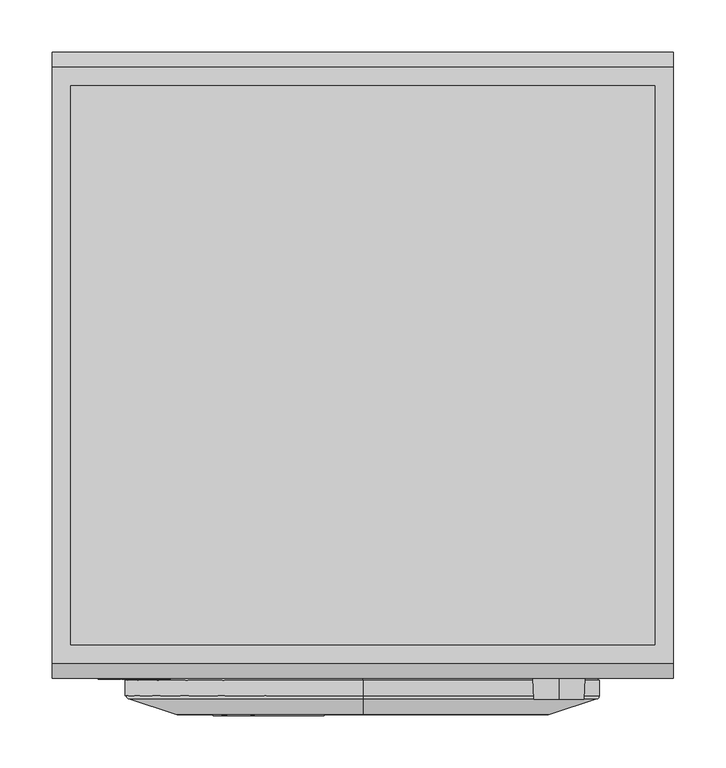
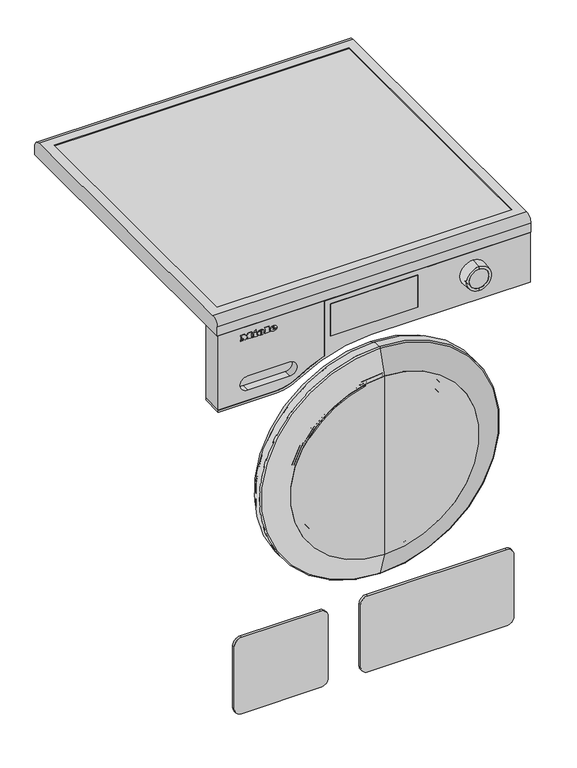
"""IFC4 building model written with IfcOpenShell, lengths in millimetres: proxy geometry, 12455150_F_WEI885WPS_LW : 11EI8856_F_12455150_WEI885WPS_LW."""

from ifc_helpers import new_model, si_unit, point, frame, frame_2d, origin, place, context, project, spatial, polyline, circle_curve, ellipse_curve, trimmed, segment, composite_curve, outline, extrude, source, transform, mapped, element, save
from ifc_brep_helpers import plane_surface, cylinder_surface, revolved_surface, extruded_surface, advanced_brep


def specialty_equipment_6abb5cbe(model_context):
    return source(origin(), model_context, "Body", "SolidModel", [
        advanced_brep(
        [(-192.212, -601.0, 794.7018), (-192.212, -601.0, 795.8532), (-184.5854, -601.0, 795.8532), (-197.855, -601.0, 795.8532), (-194.72, -601.0, 792.0), (-184.7792, -601.0, 794.7018), (-188.222, -601.0, 794.7018), (-190.9352, -601.0, 793.425), (-192.212, -601.0, 797.3124), (-192.212, -601.0, 798.555), (-190.2626, -601.0, 798.555), (-190.2626, -601.0, 797.3124), (-192.212, -600.0, 794.7018), (-190.9352, -600.0, 793.425), (-188.222, -600.0, 794.7018), (-184.7792, -600.0, 794.7018), (-194.72, -600.0, 792.0), (-197.855, -600.0, 795.8532), (-184.5854, -600.0, 795.8532), (-192.212, -600.0, 795.8532), (-192.212, -600.0, 797.3124), (-190.2626, -600.0, 797.3124), (-190.2626, -600.0, 798.555), (-192.212, -600.0, 798.555)],
        [
            (0, 1),
            (1, 2),
            (2, 3, ellipse_curve(frame((-191.2202, -601.0, 795.8532), z_axis=(0.0, -1.0, 0.0), x_axis=(-1.0, 0.0, 0.0)), 6.6348, 5.4834)),
            (3, 4, circle_curve(frame((-193.4431378, -601.0, 796.2408), z_axis=(0.0, -1.0, 0.0), x_axis=(0.0, 0.0, -1.0)), 4.4288556)),
            (4, 5, circle_curve(frame((-191.3530192, -601.0, 799.2504), z_axis=(0.0, -1.0, 0.0), x_axis=(0.0, 0.0, -1.0)), 7.9940516)),
            (5, 6),
            (6, 7, circle_curve(frame((-190.3779412, -601.0, 795.762), z_axis=(0.0, 1.0, 0.0), x_axis=(0.0, 0.0, -1.0)), 2.4025208)),
            (7, 0, circle_curve(frame((-190.9352, -601.0, 794.7018), z_axis=(0.0, 1.0, 0.0), x_axis=(0.0, 0.0, -1.0)), 1.2768)),
            (8, 9),
            (9, 10, circle_curve(frame((-191.2373, -601.0, 798.555), z_axis=(0.0, 1.0, 0.0), x_axis=(0.0, 0.0, -1.0)), 0.9747)),
            (10, 11),
            (11, 8),
            (12, 13, circle_curve(frame((-190.9352, -600.0, 794.7018), z_axis=(0.0, -1.0, 0.0), x_axis=(0.0, 0.0, -1.0)), 1.2768)),
            (13, 14, circle_curve(frame((-190.3779412, -600.0, 795.762), z_axis=(0.0, -1.0, 0.0), x_axis=(0.0, 0.0, -1.0)), 2.4025208)),
            (14, 15),
            (15, 16, circle_curve(frame((-191.3530192, -600.0, 799.2504), z_axis=(0.0, 1.0, 0.0), x_axis=(0.0, 0.0, -1.0)), 7.9940516)),
            (16, 17, circle_curve(frame((-193.4431378, -600.0, 796.2408), z_axis=(0.0, 1.0, 0.0), x_axis=(0.0, 0.0, -1.0)), 4.4288556)),
            (17, 18, ellipse_curve(frame((-191.2202, -600.0, 795.8532), z_axis=(0.0, 1.0, 0.0), x_axis=(-1.0, 0.0, 0.0)), 6.6348, 5.4834)),
            (18, 19),
            (19, 12),
            (20, 21),
            (21, 22),
            (22, 23, circle_curve(frame((-191.2373, -600.0, 798.555), z_axis=(0.0, -1.0, 0.0), x_axis=(0.0, 0.0, -1.0)), 0.9747)),
            (23, 20),
            (0, 12),
            (19, 1),
            (18, 2),
            (5, 15),
            (14, 6),
            (17, 3),
            (13, 7),
            (16, 4),
            (8, 20),
            (23, 9),
            (22, 10),
            (21, 11),
        ],
        [
            plane_surface(frame((-192.212, -601.0, 795.8532), z_axis=(0.0, -1.0, 0.0), x_axis=(0.0, 0.0, 1.0))),
            plane_surface(frame((-192.212, -600.0, 795.8532), z_axis=(0.0, 1.0, 0.0), x_axis=(0.0, 0.0, -1.0))),
            plane_surface(frame((-192.212, -601.0, 794.7018), z_axis=(1.0, 0.0, 0.0), x_axis=(0.0, 1.0, 0.0))),
            plane_surface(frame((-192.212, -601.0, 795.8532), z_axis=(0.0, 0.0, -1.0), x_axis=(0.0, 1.0, 0.0))),
            plane_surface(frame((-184.7792, -601.0, 794.7018), z_axis=(0.0, 0.0, 1.0), x_axis=(0.0, 1.0, 0.0))),
            extruded_surface(trimmed(ellipse_curve(frame((-191.2202, -599.0, 795.8532), z_axis=(0.0, -1.0, 0.0), x_axis=(-1.0, 0.0, 0.0)), 6.6348, 5.4834), [point((-184.5854, -599.0, 795.8532))], [point((-197.855, -599.0, 795.8532))], True, "CARTESIAN"), (0.0, -1.0, 0.0), 1.0),
            revolved_surface(polyline([(-190.3779412, -600.0, 793.3594791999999), (-190.3779412, -601.0, 793.3594791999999)]), (-190.3779412, -600.0, 795.762), (0.0, 1.0, 0.0)),
            revolved_surface(polyline([(-190.9352, -600.0, 793.4250000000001), (-190.9352, -601.0, 793.4250000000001)]), (-190.9352, -600.0, 794.7018), (0.0, 1.0, 0.0)),
            cylinder_surface(frame((-193.4431378, -600.0, 796.2408), z_axis=(0.0, -1.0, 0.0), x_axis=(0.0, 0.0, -1.0)), 4.4288556),
            cylinder_surface(frame((-191.3530192, -600.0, 799.2504), z_axis=(0.0, -1.0, 0.0), x_axis=(0.0, 0.0, -1.0)), 7.9940516),
            plane_surface(frame((-192.212, -601.0, 797.3124), z_axis=(1.0, 0.0, 0.0), x_axis=(0.0, 1.0, 0.0))),
            revolved_surface(polyline([(-191.2373, -600.0, 797.5803), (-191.2373, -601.0, 797.5803)]), (-191.2373, -600.0, 798.555), (0.0, 1.0, 0.0)),
            plane_surface(frame((-190.2626, -601.0, 798.555), z_axis=(-1.0, 0.0, 0.0), x_axis=(0.0, 1.0, 0.0))),
            plane_surface(frame((-190.2626, -601.0, 797.3124), z_axis=(0.0, 0.0, 1.0), x_axis=(0.0, 1.0, 0.0))),
        ],
        [
            (0, [[1, 2, 3, 4, 5, 6, 7, 8], [9, 10, 11, 12]]),
            (1, [[13, 14, 15, 16, 17, 18, 19, 20], [21, 22, 23, 24]]),
            (2, [[-1, 25, -20, 26]]),
            (3, [[-2, -26, -19, 27]]),
            (4, [[-6, 28, -15, 29]]),
            (5, [[-3, -27, -18, 30]]),
            (6, [[-7, -29, -14, 31]]),
            (7, [[-8, -31, -13, -25]]),
            (8, [[-4, -30, -17, 32]]),
            (9, [[-5, -32, -16, -28]]),
            (10, [[-9, 33, -24, 34]]),
            (11, [[-10, -34, -23, 35]]),
            (12, [[-11, -35, -22, 36]]),
            (13, [[-12, -36, -21, -33]]),
        ],
    ),
        advanced_brep(
        [(-216.0038, -601.0, 794.7018), (-216.0038, -601.0, 795.8532), (-208.3772, -601.0, 795.8532), (-221.6468, -601.0, 795.8532), (-218.5118, -601.0, 792.0), (-208.571, -601.0, 794.7018), (-212.0138, -601.0, 794.7018), (-214.727, -601.0, 793.425), (-216.0038, -601.0, 797.3124), (-216.0038, -601.0, 798.555), (-214.0544, -601.0, 798.555), (-214.0544, -601.0, 797.3124), (-216.0038, -600.0, 794.7018), (-214.727, -600.0, 793.425), (-212.0138, -600.0, 794.7018), (-208.571, -600.0, 794.7018), (-218.5118, -600.0, 792.0), (-221.6468, -600.0, 795.8532), (-208.3772, -600.0, 795.8532), (-216.0038, -600.0, 795.8532), (-216.0038, -600.0, 797.3124), (-214.0544, -600.0, 797.3124), (-214.0544, -600.0, 798.555), (-216.0038, -600.0, 798.555)],
        [
            (0, 1),
            (1, 2),
            (2, 3, ellipse_curve(frame((-215.012, -601.0, 795.8532), z_axis=(0.0, -1.0, 0.0), x_axis=(-1.0, 0.0, 0.0)), 6.6348, 5.4834)),
            (3, 4, circle_curve(frame((-217.2349378, -601.0, 796.2408), z_axis=(0.0, -1.0, 0.0), x_axis=(0.0, 0.0, -1.0)), 4.4288556)),
            (4, 5, circle_curve(frame((-215.1448192, -601.0, 799.2504), z_axis=(0.0, -1.0, 0.0), x_axis=(0.0, 0.0, -1.0)), 7.9940516)),
            (5, 6),
            (6, 7, circle_curve(frame((-214.1697412, -601.0, 795.762), z_axis=(0.0, 1.0, 0.0), x_axis=(0.0, 0.0, -1.0)), 2.4025208)),
            (7, 0, circle_curve(frame((-214.727, -601.0, 794.7018), z_axis=(0.0, 1.0, 0.0), x_axis=(0.0, 0.0, -1.0)), 1.2768)),
            (8, 9),
            (9, 10, circle_curve(frame((-215.0291, -601.0, 798.555), z_axis=(0.0, 1.0, 0.0), x_axis=(0.0, 0.0, -1.0)), 0.9747)),
            (10, 11),
            (11, 8),
            (12, 13, circle_curve(frame((-214.727, -600.0, 794.7018), z_axis=(0.0, -1.0, 0.0), x_axis=(0.0, 0.0, -1.0)), 1.2768)),
            (13, 14, circle_curve(frame((-214.1697412, -600.0, 795.762), z_axis=(0.0, -1.0, 0.0), x_axis=(0.0, 0.0, -1.0)), 2.4025208)),
            (14, 15),
            (15, 16, circle_curve(frame((-215.1448192, -600.0, 799.2504), z_axis=(0.0, 1.0, 0.0), x_axis=(0.0, 0.0, -1.0)), 7.9940516)),
            (16, 17, circle_curve(frame((-217.2349378, -600.0, 796.2408), z_axis=(0.0, 1.0, 0.0), x_axis=(0.0, 0.0, -1.0)), 4.4288556)),
            (17, 18, ellipse_curve(frame((-215.012, -600.0, 795.8532), z_axis=(0.0, 1.0, 0.0), x_axis=(-1.0, 0.0, 0.0)), 6.6348, 5.4834)),
            (18, 19),
            (19, 12),
            (20, 21),
            (21, 22),
            (22, 23, circle_curve(frame((-215.0291, -600.0, 798.555), z_axis=(0.0, -1.0, 0.0), x_axis=(0.0, 0.0, -1.0)), 0.9747)),
            (23, 20),
            (0, 12),
            (19, 1),
            (18, 2),
            (5, 15),
            (14, 6),
            (17, 3),
            (13, 7),
            (16, 4),
            (8, 20),
            (23, 9),
            (22, 10),
            (21, 11),
        ],
        [
            plane_surface(frame((-216.0038, -601.0, 795.8532), z_axis=(0.0, -1.0, 0.0), x_axis=(0.0, 0.0, 1.0))),
            plane_surface(frame((-216.0038, -600.0, 795.8532), z_axis=(0.0, 1.0, 0.0), x_axis=(0.0, 0.0, -1.0))),
            plane_surface(frame((-216.0038, -601.0, 794.7018), z_axis=(1.0, 0.0, 0.0), x_axis=(0.0, 1.0, 0.0))),
            plane_surface(frame((-216.0038, -601.0, 795.8532), z_axis=(0.0, 0.0, -1.0), x_axis=(0.0, 1.0, 0.0))),
            plane_surface(frame((-208.571, -601.0, 794.7018), z_axis=(0.0, 0.0, 1.0), x_axis=(0.0, 1.0, 0.0))),
            extruded_surface(trimmed(ellipse_curve(frame((-215.012, -599.0, 795.8532), z_axis=(0.0, -1.0, 0.0), x_axis=(-1.0, 0.0, 0.0)), 6.6348, 5.4834), [point((-208.3772, -599.0, 795.8532))], [point((-221.6468, -599.0, 795.8532))], True, "CARTESIAN"), (0.0, -1.0, 0.0), 1.0),
            revolved_surface(polyline([(-214.1697412, -600.0, 793.3594791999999), (-214.1697412, -601.0, 793.3594791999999)]), (-214.1697412, -600.0, 795.762), (0.0, 1.0, 0.0)),
            revolved_surface(polyline([(-214.727, -600.0, 793.4250000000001), (-214.727, -601.0, 793.4250000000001)]), (-214.727, -600.0, 794.7018), (0.0, 1.0, 0.0)),
            cylinder_surface(frame((-217.2349378, -600.0, 796.2408), z_axis=(0.0, -1.0, 0.0), x_axis=(0.0, 0.0, -1.0)), 4.4288556),
            cylinder_surface(frame((-215.1448192, -600.0, 799.2504), z_axis=(0.0, -1.0, 0.0), x_axis=(0.0, 0.0, -1.0)), 7.9940516),
            plane_surface(frame((-216.0038, -601.0, 797.3124), z_axis=(1.0, 0.0, 0.0), x_axis=(0.0, 1.0, 0.0))),
            revolved_surface(polyline([(-215.0291, -600.0, 797.5803), (-215.0291, -601.0, 797.5803)]), (-215.0291, -600.0, 798.555), (0.0, 1.0, 0.0)),
            plane_surface(frame((-214.0544, -601.0, 798.555), z_axis=(-1.0, 0.0, 0.0), x_axis=(0.0, 1.0, 0.0))),
            plane_surface(frame((-214.0544, -601.0, 797.3124), z_axis=(0.0, 0.0, 1.0), x_axis=(0.0, 1.0, 0.0))),
        ],
        [
            (0, [[1, 2, 3, 4, 5, 6, 7, 8], [9, 10, 11, 12]]),
            (1, [[13, 14, 15, 16, 17, 18, 19, 20], [21, 22, 23, 24]]),
            (2, [[-1, 25, -20, 26]]),
            (3, [[-2, -26, -19, 27]]),
            (4, [[-6, 28, -15, 29]]),
            (5, [[-3, -27, -18, 30]]),
            (6, [[-7, -29, -14, 31]]),
            (7, [[-8, -31, -13, -25]]),
            (8, [[-4, -30, -17, 32]]),
            (9, [[-5, -32, -16, -28]]),
            (10, [[-9, 33, -24, 34]]),
            (11, [[-10, -34, -23, 35]]),
            (12, [[-11, -35, -22, 36]]),
            (13, [[-12, -36, -21, -33]]),
        ],
    ),
        extrude(outline(polyline([(802.7274, -228.464), (800.8806, -227.5976), (802.6818, -223.733), (804.5286, -224.588), (802.7274, -228.464)])), frame((0.0, -601.0, 0.0), z_axis=(0.0, 1.0, 0.0), x_axis=(0.0, 0.0, 1.0)), (0.0, 0.0, 1.0), 1.0),
        extrude(outline(polyline([(800.6298, -231.2798), (798.5892, -231.2798), (798.5892, -229.9232), (793.9152, -229.9232), (793.9152, -231.2798), (792.0, -231.2798), (792.0, -222.2852), (793.9152, -222.2852), (793.9152, -223.6076), (800.6298, -223.6076), (800.6298, -231.2798)])), frame((0.0, -601.0, 0.0), z_axis=(0.0, 1.0, 0.0), x_axis=(0.0, 0.0, 1.0)), (0.0, 0.0, 1.0), 1.0),
        extrude(outline(polyline([(801.5418, -207.7388), (801.5418, -206.3708), (793.9152, -206.3708), (793.9152, -207.7388), (792.0, -207.7388), (792.0, -198.4934), (793.9152, -198.4934), (793.9152, -199.8956), (803.4, -199.8956), (803.4, -207.7388), (801.5418, -207.7388)])), frame((0.0, -601.0, 0.0), z_axis=(0.0, 1.0, 0.0), x_axis=(0.0, 0.0, 1.0)), (0.0, 0.0, 1.0), 1.0),
        extrude(outline(polyline([(801.5418, -254.0), (801.5418, -252.6206), (793.9152, -252.6206), (793.9152, -254.0), (792.0, -254.0), (792.0, -248.984), (793.9152, -248.984), (793.9152, -250.352), (798.7429247, -250.352), (792.0, -245.2562), (798.9402223, -240.1376), (793.9152, -240.1376), (793.9152, -241.5398), (792.0, -241.5398), (792.0, -232.4426), (793.9152, -232.4426), (793.9152, -233.8904), (801.5418, -233.8904), (801.5418, -232.4426), (803.4, -232.4426), (803.4, -239.3852), (799.125, -242.714), (803.4, -246.0542), (803.4, -254.0), (801.5418, -254.0)])), frame((0.0, -601.0, 0.0), z_axis=(0.0, 1.0, 0.0), x_axis=(0.0, 0.0, 1.0)), (0.0, 0.0, 1.0), 1.0),
        extrude(outline(composite_curve([segment(trimmed(circle_curve(frame_2d((475.0, 0.0)), 179.0077488), [point((650.0572384, -37.3996979))], [point((581.8669772, -143.6078804))], False, "CARTESIAN"), True, "CONTINUOUS"), segment(polyline([(581.8669772, -143.6078804), (580.6729844, -142.0033925)]), True, "CONTINUOUS"), segment(trimmed(circle_curve(frame_2d((475.0, 0.0)), 177.0077488), [point((580.6729844, -142.0033925))], [point((648.1013763, -36.9818423))], True, "CARTESIAN"), True, "CONTINUOUS"), segment(polyline([(648.1013763, -36.9818423), (650.0572384, -37.3996979)]), True, "CONTINUOUS")], self_intersect=False)), frame((0.0, -636.0, 0.0), z_axis=(0.0, 1.0, 0.0), x_axis=(0.0, 0.0, 1.0)), (0.0, 0.0, 1.0), 1.0),
        advanced_brep(
        [(0.0, -610.8709778, 313.0), (0.0, -610.8709778, 637.0), (0.0, -592.0, 637.0), (0.0, -592.0, 313.0), (0.0, -628.93239, 652.7005461), (0.0, -628.93239, 297.2994539), (0.0, -630.9005671, 650.4364173), (0.0, -630.9005671, 299.5635827), (0.0, -592.0, 326.0), (0.0, -592.0, 624.0), (0.0, -589.0, 326.0), (0.0, -589.0, 624.0), (0.0, -589.0, 475.0), (0.0, -635.0, 296.0), (0.0, -635.0, 654.0), (0.0, -635.0, 475.0)],
        [
            (0, 1, circle_curve(frame((0.0, -610.8709778, 475.0), z_axis=(0.0, 1.0, 0.0), x_axis=(0.0, 0.0, 1.0)), 162.0)),
            (1, 2),
            (2, 3, circle_curve(frame((0.0, -592.0, 475.0), z_axis=(0.0, -1.0, 0.0), x_axis=(0.0, 0.0, 1.0)), 162.0)),
            (3, 0),
            (4, 5, circle_curve(frame((0.0, -628.93239, 475.0), z_axis=(0.0, 1.0, 0.0), x_axis=(0.0, 0.0, 1.0)), 177.7005461)),
            (5, 0),
            (0, 1, circle_curve(frame((0.0, -610.8709778, 475.0), z_axis=(0.0, -1.0, 0.0), x_axis=(0.0, 0.0, 1.0)), 162.0)),
            (1, 4),
            (6, 7, circle_curve(frame((0.0, -630.9005671, 475.0), z_axis=(0.0, 1.0, 0.0), x_axis=(0.0, 0.0, 1.0)), 175.4364173)),
            (7, 5),
            (4, 6),
            (2, 3, circle_curve(frame((0.0, -592.0, 475.0), z_axis=(0.0, 1.0, 0.0), x_axis=(0.0, 0.0, 1.0)), 162.0)),
            (3, 8),
            (8, 9, circle_curve(frame((0.0, -592.0, 475.0), z_axis=(0.0, -1.0, 0.0), x_axis=(0.0, 0.0, 1.0)), 149.0)),
            (9, 2),
            (10, 11, circle_curve(frame((0.0, -589.0, 475.0), z_axis=(0.0, 1.0, 0.0), x_axis=(0.0, 0.0, 1.0)), 149.0)),
            (11, 12),
            (12, 10),
            (8, 9, circle_curve(frame((0.0, -592.0, 475.0), z_axis=(0.0, 1.0, 0.0), x_axis=(0.0, 0.0, 1.0)), 149.0)),
            (9, 11),
            (10, 8),
            (13, 14, circle_curve(frame((0.0, -635.0, 475.0), z_axis=(0.0, 1.0, 0.0), x_axis=(0.0, 0.0, 1.0)), 179.0)),
            (14, 6),
            (6, 7, circle_curve(frame((0.0, -630.9005671, 475.0), z_axis=(0.0, -1.0, 0.0), x_axis=(0.0, 0.0, 1.0)), 175.4364173)),
            (7, 13),
            (14, 13, circle_curve(frame((0.0, -635.0, 475.0), z_axis=(0.0, 1.0, 0.0), x_axis=(0.0, 0.0, 1.0)), 179.0)),
            (15, 14),
            (13, 15),
            (11, 10, circle_curve(frame((0.0, -589.0, 475.0), z_axis=(0.0, 1.0, 0.0), x_axis=(0.0, 0.0, 1.0)), 149.0)),
            (5, 4, circle_curve(frame((0.0, -628.93239, 475.0), z_axis=(0.0, 1.0, 0.0), x_axis=(0.0, 0.0, 1.0)), 177.7005461)),
        ],
        [
            cylinder_surface(frame((0.0, -2342.7556811, 475.0), z_axis=(0.0, -1.0, 0.0), x_axis=(0.0, 0.0, 1.0)), 162.0),
            revolved_surface(polyline([(0.0, -610.8709778, 637.0), (0.0, -628.93239, 652.7005461)]), (0.0, -2342.7556811, 475.0), (0.0, -1.0, 0.0)),
            revolved_surface(polyline([(0.0, -628.93239, 652.7005461), (0.0, -630.9005671, 650.4364173)]), (0.0, -2342.7556811, 475.0), (0.0, -1.0, 0.0)),
            plane_surface(frame((0.0, -592.0, 475.0), z_axis=(0.0, 1.0, 0.0), x_axis=(0.0, 0.0, 1.0))),
            plane_surface(frame((0.0, -589.0, 475.0), z_axis=(0.0, 1.0, 0.0), x_axis=(0.0, 0.0, 1.0))),
            cylinder_surface(frame((0.0, -2342.7556811, 475.0), z_axis=(0.0, -1.0, 0.0), x_axis=(0.0, 0.0, 1.0)), 149.0),
            revolved_surface(polyline([(0.0, -630.9005671, 650.4364173), (0.0, -635.0, 654.0)]), (0.0, -2342.7556811, 475.0), (0.0, -1.0, 0.0)),
            plane_surface(frame((0.0, -635.0, 475.0), z_axis=(0.0, -1.0, 0.0), x_axis=(0.0, 0.0, 1.0))),
        ],
        [
            (0, [[1, 2, 3, 4]]),
            (1, [[5, 6, 7, 8]]),
            (2, [[9, 10, -5, 11]]),
            (3, [[12, 13, 14, 15]]),
            (4, [[16, 17, 18]]),
            (5, [[19, 20, -16, 21]]),
            (6, [[22, 23, 24, 25]]),
            (6, [[26, -25, -9, -23]]),
            (7, [[27, -22, 28]]),
            (7, [[-28, -26, -27]]),
            (4, [[29, -18, -17]]),
            (5, [[-14, -21, -29, -20]]),
            (3, [[-3, -15, -19, -13]]),
            (0, [[-7, -4, -12, -2]]),
            (1, [[30, -8, -1, -6]]),
            (2, [[-24, -11, -30, -10]]),
        ],
    ),
        advanced_brep(
        [(0.0, -602.0, 313.0), (0.0, -602.0, 637.0), (0.0, -602.0, 702.0), (0.0, -602.0, 248.0), (0.0, -592.0, 326.0), (0.0, -592.0, 624.0), (0.0, -592.0, 637.0), (0.0, -592.0, 313.0), (0.0, -589.0, 326.0), (0.0, -589.0, 624.0), (0.0, -589.0, 254.0), (0.0, -589.0, 696.0)],
        [
            (0, 1, circle_curve(frame((0.0, -602.0, 475.0), z_axis=(0.0, 1.0, 0.0), x_axis=(0.0, 0.0, 1.0)), 162.0)),
            (1, 2),
            (2, 3, circle_curve(frame((0.0, -602.0, 475.0), z_axis=(0.0, -1.0, 0.0), x_axis=(0.0, 0.0, 1.0)), 227.0)),
            (3, 0),
            (4, 5, circle_curve(frame((0.0, -592.0, 475.0), z_axis=(0.0, 1.0, 0.0), x_axis=(0.0, 0.0, 1.0)), 149.0)),
            (5, 6),
            (6, 7, circle_curve(frame((0.0, -592.0, 475.0), z_axis=(0.0, -1.0, 0.0), x_axis=(0.0, 0.0, 1.0)), 162.0)),
            (7, 4),
            (5, 4, circle_curve(frame((0.0, -592.0, 475.0), z_axis=(0.0, 1.0, 0.0), x_axis=(0.0, 0.0, 1.0)), 149.0)),
            (7, 6, circle_curve(frame((0.0, -592.0, 475.0), z_axis=(0.0, -1.0, 0.0), x_axis=(0.0, 0.0, 1.0)), 162.0)),
            (8, 9, circle_curve(frame((0.0, -589.0, 475.0), z_axis=(0.0, 1.0, 0.0), x_axis=(0.0, 0.0, 1.0)), 149.0)),
            (9, 5),
            (4, 8),
            (2, 3, circle_curve(frame((0.0, -602.0, 475.0), z_axis=(0.0, 1.0, 0.0), x_axis=(0.0, 0.0, 1.0)), 227.0)),
            (3, 10),
            (10, 11, circle_curve(frame((0.0, -589.0, 475.0), z_axis=(0.0, -1.0, 0.0), x_axis=(0.0, 0.0, 1.0)), 221.0)),
            (11, 2),
            (10, 11, circle_curve(frame((0.0, -589.0, 475.0), z_axis=(0.0, 1.0, 0.0), x_axis=(0.0, 0.0, 1.0)), 221.0)),
            (11, 9),
            (8, 10),
            (8, 9, circle_curve(frame((0.0, -589.0, 475.0), z_axis=(0.0, -1.0, 0.0), x_axis=(0.0, 0.0, 1.0)), 149.0)),
            (1, 0, circle_curve(frame((0.0, -602.0, 475.0), z_axis=(0.0, 1.0, 0.0), x_axis=(0.0, 0.0, 1.0)), 162.0)),
            (6, 1),
            (0, 7),
        ],
        [
            plane_surface(frame((0.0, -602.0, 475.0), z_axis=(0.0, -1.0, 0.0), x_axis=(0.0, 0.0, 1.0))),
            plane_surface(frame((0.0, -592.0, 475.0), z_axis=(0.0, -1.0, 0.0), x_axis=(0.0, 0.0, 1.0))),
            revolved_surface(polyline([(0.0, -592.0, 624.0), (0.0, -589.0, 624.0)]), (0.0, -2342.7556811, 475.0), (0.0, -1.0, 0.0)),
            revolved_surface(polyline([(0.0, -589.0, 696.0), (0.0, -602.0, 702.0)]), (0.0, -2342.7556811, 475.0), (0.0, -1.0, 0.0)),
            plane_surface(frame((0.0, -589.0, 475.0), z_axis=(0.0, 1.0, 0.0), x_axis=(0.0, 0.0, 1.0))),
            revolved_surface(polyline([(0.0, -602.0, 637.0), (0.0, -592.0, 637.0)]), (0.0, -2342.7556811, 475.0), (0.0, -1.0, 0.0)),
        ],
        [
            (0, [[1, 2, 3, 4]]),
            (1, [[5, 6, 7, 8]]),
            (1, [[9, -8, 10, -6]]),
            (2, [[11, 12, -5, 13]]),
            (3, [[14, 15, 16, 17]]),
            (4, [[18, 19, -11, 20]]),
            (4, [[-16, -20, 21, -19]]),
            (3, [[-3, -17, -18, -15]]),
            (0, [[22, -4, -14, -2]]),
            (5, [[-7, 23, -1, 24]]),
            (5, [[-10, -24, -22, -23]]),
            (2, [[-21, -13, -9, -12]]),
        ],
    ),
        advanced_brep(
        [(0.0, -602.0, 313.0), (0.0, -602.0, 637.0), (0.0, -610.8709778, 637.0), (0.0, -610.8709778, 313.0), (0.0, -602.0, 310.0), (0.0, -602.0, 640.0), (0.0, -609.7493238, 310.0), (0.0, -609.7493238, 640.0), (0.0, -628.93239, 297.2994539), (0.0, -628.93239, 652.7005461), (0.0, -626.9642129, 654.9646748), (0.0, -626.9642129, 295.0353252)],
        [
            (0, 1, circle_curve(frame((0.0, -602.0, 475.0), z_axis=(0.0, 1.0, 0.0), x_axis=(0.0, 0.0, 1.0)), 162.0)),
            (1, 2),
            (2, 3, circle_curve(frame((0.0, -610.8709778, 475.0), z_axis=(0.0, -1.0, 0.0), x_axis=(0.0, 0.0, 1.0)), 162.0)),
            (3, 0),
            (4, 5, circle_curve(frame((0.0, -602.0, 475.0), z_axis=(0.0, 1.0, 0.0), x_axis=(0.0, 0.0, 1.0)), 165.0)),
            (5, 1),
            (0, 4),
            (6, 7, circle_curve(frame((0.0, -609.7493238, 475.0), z_axis=(0.0, 1.0, 0.0), x_axis=(0.0, 0.0, 1.0)), 165.0)),
            (7, 5),
            (4, 6),
            (2, 3, circle_curve(frame((0.0, -610.8709778, 475.0), z_axis=(0.0, 1.0, 0.0), x_axis=(0.0, 0.0, 1.0)), 162.0)),
            (3, 8),
            (8, 9, circle_curve(frame((0.0, -628.93239, 475.0), z_axis=(0.0, -1.0, 0.0), x_axis=(0.0, 0.0, 1.0)), 177.7005461)),
            (9, 2),
            (8, 9, circle_curve(frame((0.0, -628.93239, 475.0), z_axis=(0.0, 1.0, 0.0), x_axis=(0.0, 0.0, 1.0)), 177.7005461)),
            (9, 10),
            (10, 11, circle_curve(frame((0.0, -626.9642129, 475.0), z_axis=(0.0, -1.0, 0.0), x_axis=(0.0, 0.0, 1.0)), 179.9646748)),
            (11, 8),
            (11, 10, circle_curve(frame((0.0, -626.9642129, 475.0), z_axis=(0.0, -1.0, 0.0), x_axis=(0.0, 0.0, 1.0)), 179.9646748)),
            (1, 0, circle_curve(frame((0.0, -602.0, 475.0), z_axis=(0.0, 1.0, 0.0), x_axis=(0.0, 0.0, 1.0)), 162.0)),
            (10, 7),
            (6, 11),
            (6, 7, circle_curve(frame((0.0, -609.7493238, 475.0), z_axis=(0.0, -1.0, 0.0), x_axis=(0.0, 0.0, 1.0)), 165.0)),
            (5, 4, circle_curve(frame((0.0, -602.0, 475.0), z_axis=(0.0, 1.0, 0.0), x_axis=(0.0, 0.0, 1.0)), 165.0)),
        ],
        [
            revolved_surface(polyline([(0.0, -610.8709778, 637.0), (0.0, -602.0, 637.0)]), (0.0, -2342.7556811, 475.0), (0.0, -1.0, 0.0)),
            plane_surface(frame((0.0, -602.0, 475.0), z_axis=(0.0, 1.0, 0.0), x_axis=(0.0, 0.0, 1.0))),
            cylinder_surface(frame((0.0, -2342.7556811, 475.0), z_axis=(0.0, -1.0, 0.0), x_axis=(0.0, 0.0, 1.0)), 165.0),
            revolved_surface(polyline([(0.0, -628.93239, 652.7005461), (0.0, -610.8709778, 637.0)]), (0.0, -2342.7556811, 475.0), (0.0, -1.0, 0.0)),
            revolved_surface(polyline([(0.0, -626.9642129, 654.9646748), (0.0, -628.93239, 652.7005461)]), (0.0, -2342.7556811, 475.0), (0.0, -1.0, 0.0)),
            revolved_surface(polyline([(0.0, -609.7493238, 640.0), (0.0, -626.9642129, 654.9646748)]), (0.0, -2342.7556811, 475.0), (0.0, -1.0, 0.0)),
        ],
        [
            (0, [[1, 2, 3, 4]]),
            (1, [[5, 6, -1, 7]]),
            (2, [[8, 9, -5, 10]]),
            (3, [[11, 12, 13, 14]]),
            (4, [[15, 16, 17, 18]]),
            (4, [[-13, -18, 19, -16]]),
            (3, [[-3, -14, -15, -12]]),
            (0, [[20, -4, -11, -2]]),
            (5, [[-17, 21, -8, 22]]),
            (5, [[-19, -22, 23, -21]]),
            (1, [[24, -7, -20, -6]]),
            (2, [[-23, -10, -24, -9]]),
        ],
    ),
        advanced_brep(
        [(0.0, -626.9642129, 295.0353252), (0.0, -626.9642129, 654.9646748), (0.0, -630.9005671, 650.4364173), (0.0, -630.9005671, 299.5635827), (0.0, -602.0, 247.0), (0.0, -602.0, 703.0), (0.0, -602.0, 640.0), (0.0, -602.0, 310.0), (0.0, -609.7493238, 640.0), (0.0, -609.7493238, 310.0), (0.0, -635.0, 296.0), (0.0, -635.0, 654.0), (0.0, -616.8993073, 247.0), (0.0, -616.8993073, 703.0), (0.0, -619.7524768, 249.072949), (0.0, -619.7524768, 700.927051)],
        [
            (0, 1, circle_curve(frame((0.0, -626.9642129, 475.0), z_axis=(0.0, 1.0, 0.0), x_axis=(0.0, 0.0, 1.0)), 179.9646748)),
            (1, 2),
            (2, 3, circle_curve(frame((0.0, -630.9005671, 475.0), z_axis=(0.0, -1.0, 0.0), x_axis=(0.0, 0.0, 1.0)), 175.4364173)),
            (3, 0),
            (4, 5, circle_curve(frame((0.0, -602.0, 475.0), z_axis=(0.0, 1.0, 0.0), x_axis=(0.0, 0.0, 1.0)), 228.0)),
            (5, 6),
            (6, 7, circle_curve(frame((0.0, -602.0, 475.0), z_axis=(0.0, -1.0, 0.0), x_axis=(0.0, 0.0, 1.0)), 165.0)),
            (7, 4),
            (6, 8),
            (8, 9, circle_curve(frame((0.0, -609.7493238, 475.0), z_axis=(0.0, -1.0, 0.0), x_axis=(0.0, 0.0, 1.0)), 165.0)),
            (9, 7),
            (2, 3, circle_curve(frame((0.0, -630.9005671, 475.0), z_axis=(0.0, 1.0, 0.0), x_axis=(0.0, 0.0, 1.0)), 175.4364173)),
            (3, 10),
            (10, 11, circle_curve(frame((0.0, -635.0, 475.0), z_axis=(0.0, -1.0, 0.0), x_axis=(0.0, 0.0, 1.0)), 179.0)),
            (11, 2),
            (12, 13, circle_curve(frame((0.0, -616.8993073, 475.0), z_axis=(0.0, 1.0, 0.0), x_axis=(0.0, 0.0, 1.0)), 228.0)),
            (13, 5),
            (4, 12),
            (13, 12, circle_curve(frame((0.0, -616.8993073, 475.0), z_axis=(0.0, 1.0, 0.0), x_axis=(0.0, 0.0, 1.0)), 228.0)),
            (4, 5, circle_curve(frame((0.0, -602.0, 475.0), z_axis=(0.0, -1.0, 0.0), x_axis=(0.0, 0.0, 1.0)), 228.0)),
            (14, 15, circle_curve(frame((0.0, -619.7524768, 475.0), z_axis=(0.0, 1.0, 0.0), x_axis=(0.0, 0.0, 1.0)), 225.927051)),
            (15, 13, circle_curve(frame((0.0, -616.8993073, 700.0), z_axis=(-1.0, 0.0, 0.0), x_axis=(0.0, 1.0, 0.0)), 3.0)),
            (12, 14, circle_curve(frame((0.0, -616.8993073, 250.0), z_axis=(-1.0, 0.0, 0.0), x_axis=(0.0, 1.0, 0.0)), 3.0)),
            (15, 14, circle_curve(frame((0.0, -619.7524768, 475.0), z_axis=(0.0, 1.0, 0.0), x_axis=(0.0, 0.0, 1.0)), 225.927051)),
            (10, 11, circle_curve(frame((0.0, -635.0, 475.0), z_axis=(0.0, 1.0, 0.0), x_axis=(0.0, 0.0, 1.0)), 179.0)),
            (11, 15),
            (14, 10),
            (1, 0, circle_curve(frame((0.0, -626.9642129, 475.0), z_axis=(0.0, 1.0, 0.0), x_axis=(0.0, 0.0, 1.0)), 179.9646748)),
            (8, 1),
            (0, 9),
            (8, 9, circle_curve(frame((0.0, -609.7493238, 475.0), z_axis=(0.0, 1.0, 0.0), x_axis=(0.0, 0.0, 1.0)), 165.0)),
            (7, 6, circle_curve(frame((0.0, -602.0, 475.0), z_axis=(0.0, -1.0, 0.0), x_axis=(0.0, 0.0, 1.0)), 165.0)),
        ],
        [
            revolved_surface(polyline([(0.0, -630.9005671, 650.4364173), (0.0, -626.9642129, 654.9646748)]), (0.0, -2342.7556811, 475.0), (0.0, -1.0, 0.0)),
            plane_surface(frame((0.0, -602.0, 475.0), z_axis=(0.0, 1.0, 0.0), x_axis=(0.0, 0.0, 1.0))),
            revolved_surface(polyline([(0.0, -609.7493238, 640.0), (0.0, -602.0, 640.0)]), (0.0, -2342.7556811, 475.0), (0.0, -1.0, 0.0)),
            revolved_surface(polyline([(0.0, -635.0, 654.0), (0.0, -630.9005671, 650.4364173)]), (0.0, -2342.7556811, 475.0), (0.0, -1.0, 0.0)),
            cylinder_surface(frame((0.0, -2342.7556811, 475.0), z_axis=(0.0, -1.0, 0.0), x_axis=(0.0, 0.0, 1.0)), 228.0),
            revolved_surface(trimmed(ellipse_curve(frame((0.0, -616.8993073, 700.0), z_axis=(1.0, 0.0, 0.0), x_axis=(0.0, 1.0, 0.0)), 3.0, 3.0), [point((0.0, -616.8993073, 703.0))], [point((0.0, -619.7524768, 700.927051))], True, "CARTESIAN"), (0.0, -2342.7556811, 475.0), (0.0, -1.0, 0.0)),
            revolved_surface(polyline([(0.0, -619.7524768, 700.927051), (0.0, -635.0, 654.0)]), (0.0, -2342.7556811, 475.0), (0.0, -1.0, 0.0)),
            revolved_surface(polyline([(0.0, -626.9642129, 654.9646748), (0.0, -609.7493238, 640.0)]), (0.0, -2342.7556811, 475.0), (0.0, -1.0, 0.0)),
        ],
        [
            (0, [[1, 2, 3, 4]]),
            (1, [[5, 6, 7, 8]]),
            (2, [[-7, 9, 10, 11]]),
            (3, [[12, 13, 14, 15]]),
            (4, [[16, 17, -5, 18]]),
            (4, [[19, -18, 20, -17]]),
            (5, [[21, 22, -16, 23]]),
            (5, [[24, -23, -19, -22]]),
            (6, [[25, 26, -21, 27]]),
            (6, [[-14, -27, -24, -26]]),
            (3, [[-3, -15, -25, -13]]),
            (0, [[28, -4, -12, -2]]),
            (7, [[-10, 29, -1, 30]]),
            (7, [[31, -30, -28, -29]]),
            (1, [[-20, -8, 32, -6]]),
            (2, [[-32, -11, -31, -9]]),
        ],
    ),
        advanced_brep(
        [(188.0, -600.0, 756.0), (188.0, -600.0, 794.0), (188.0, -620.0, 794.0), (188.0, -620.0, 756.0), (188.0, -600.0, 750.0), (188.0, -600.0, 800.0), (188.0, -620.0, 751.0481556), (188.0, -620.0, 798.9518444)],
        [
            (0, 1, circle_curve(frame((188.0, -600.0, 775.0), z_axis=(0.0, 1.0, 0.0), x_axis=(0.0, 0.0, 1.0)), 19.0)),
            (1, 2),
            (2, 3, circle_curve(frame((188.0, -620.0, 775.0), z_axis=(0.0, -1.0, 0.0), x_axis=(0.0, 0.0, 1.0)), 19.0)),
            (3, 0),
            (1, 0, circle_curve(frame((188.0, -600.0, 775.0), z_axis=(0.0, 1.0, 0.0), x_axis=(0.0, 0.0, 1.0)), 19.0)),
            (3, 2, circle_curve(frame((188.0, -620.0, 775.0), z_axis=(0.0, -1.0, 0.0), x_axis=(0.0, 0.0, 1.0)), 19.0)),
            (4, 5, circle_curve(frame((188.0, -600.0, 775.0), z_axis=(0.0, 1.0, 0.0), x_axis=(0.0, 0.0, 1.0)), 25.0)),
            (5, 1),
            (0, 4),
            (5, 4, circle_curve(frame((188.0, -600.0, 775.0), z_axis=(0.0, 1.0, 0.0), x_axis=(0.0, 0.0, 1.0)), 25.0)),
            (6, 7, circle_curve(frame((188.0, -620.0, 775.0), z_axis=(0.0, 1.0, 0.0), x_axis=(0.0, 0.0, 1.0)), 23.9518444)),
            (7, 5),
            (4, 6),
            (7, 6, circle_curve(frame((188.0, -620.0, 775.0), z_axis=(0.0, 1.0, 0.0), x_axis=(0.0, 0.0, 1.0)), 23.9518444)),
            (2, 7),
            (6, 3),
        ],
        [
            revolved_surface(polyline([(188.0, -620.0, 794.0), (188.0, -600.0, 794.0)]), (188.0, -2342.7556811, 775.0), (0.0, -1.0, 0.0)),
            plane_surface(frame((188.0, -600.0, 775.0), z_axis=(0.0, 1.0, 0.0), x_axis=(0.0, 0.0, 1.0))),
            revolved_surface(polyline([(188.0, -600.0, 800.0), (188.0, -620.0, 798.9518444)]), (188.0, -2342.7556811, 775.0), (0.0, -1.0, 0.0)),
            plane_surface(frame((188.0, -620.0, 775.0), z_axis=(0.0, -1.0, 0.0), x_axis=(0.0, 0.0, 1.0))),
        ],
        [
            (0, [[1, 2, 3, 4]]),
            (0, [[5, -4, 6, -2]]),
            (1, [[7, 8, -1, 9]]),
            (1, [[10, -9, -5, -8]]),
            (2, [[11, 12, -7, 13]]),
            (2, [[14, -13, -10, -12]]),
            (3, [[-3, 15, -11, 16]]),
            (3, [[-6, -16, -14, -15]]),
        ],
    ),
        extrude(outline(composite_curve([segment(trimmed(circle_curve(frame_2d((775.0, 188.0)), 19.0), [point((775.0, 207.0))], [point((775.0, 169.0))], False, "CARTESIAN"), True, "CONTINUOUS"), segment(trimmed(circle_curve(frame_2d((775.0, 188.0)), 19.0), [point((775.0, 169.0))], [point((775.0, 207.0))], False, "CARTESIAN"), True, "CONTINUOUS")], self_intersect=False)), frame((0.0, -620.0, 0.0), z_axis=(0.0, 1.0, 0.0), x_axis=(0.0, 0.0, 1.0)), (0.0, 0.0, 1.0), 20.0),
        advanced_brep(
        [(298.0, -585.5, 850.0), (298.0, -600.0, 835.5), (298.0, -600.0, 818.0), (298.0, 0.0, 818.0), (298.0, 0.0, 835.5), (298.0, -14.5, 850.0), (-298.0, -585.5, 850.0), (-298.0, -14.5, 850.0), (-298.0, 0.0, 835.5), (-298.0, 0.0, 818.0), (-298.0, -600.0, 818.0), (-298.0, -600.0, 835.5), (-280.0, -32.0, 850.0), (280.0, -32.0, 850.0), (280.0, -568.0, 850.0), (-280.0, -568.0, 850.0), (280.0, -32.0, 848.0), (-280.0, -32.0, 848.0), (-280.0, -568.0, 848.0), (280.0, -568.0, 848.0)],
        [
            (0, 1, circle_curve(frame((298.0, -585.5, 835.5), z_axis=(1.0, 0.0, 0.0), x_axis=(0.0, 0.0, -1.0)), 14.5)),
            (1, 2),
            (2, 3),
            (3, 4),
            (4, 5, circle_curve(frame((298.0, -14.5, 835.5), z_axis=(1.0, 0.0, 0.0), x_axis=(0.0, 0.0, -1.0)), 14.5)),
            (5, 0),
            (6, 7),
            (7, 8, circle_curve(frame((-298.0, -14.5, 835.5), z_axis=(-1.0, 0.0, 0.0), x_axis=(0.0, 0.0, -1.0)), 14.5)),
            (8, 9),
            (9, 10),
            (10, 11),
            (11, 6, circle_curve(frame((-298.0, -585.5, 835.5), z_axis=(-1.0, 0.0, 0.0), x_axis=(0.0, 0.0, -1.0)), 14.5)),
            (5, 7),
            (6, 0),
            (12, 13),
            (13, 14),
            (14, 15),
            (15, 12),
            (4, 8),
            (3, 9),
            (2, 10),
            (1, 11),
            (16, 17),
            (17, 18),
            (18, 19),
            (19, 16),
            (16, 13),
            (12, 17),
            (15, 18),
            (14, 19),
        ],
        [
            plane_surface(frame((298.0, -585.5, 850.0), z_axis=(1.0, 0.0, 0.0), x_axis=(0.0, -1.0, 0.0))),
            plane_surface(frame((-298.0, -585.5, 850.0), z_axis=(-1.0, 0.0, 0.0), x_axis=(0.0, 1.0, 0.0))),
            plane_surface(frame((-298.0, -585.5, 850.0), z_axis=(0.0, 0.0, 1.0), x_axis=(1.0, 0.0, 0.0))),
            cylinder_surface(frame((298.0, -14.5, 835.5), z_axis=(-1.0, 0.0, 0.0), x_axis=(0.0, 0.0, -1.0)), 14.5),
            plane_surface(frame((-298.0, 0.0, 835.5), z_axis=(0.0, 1.0, 0.0), x_axis=(1.0, 0.0, 0.0))),
            plane_surface(frame((-298.0, 0.0, 818.0), z_axis=(0.0, 0.0, -1.0), x_axis=(1.0, 0.0, 0.0))),
            plane_surface(frame((-298.0, -600.0, 818.0), z_axis=(0.0, -1.0, 0.0), x_axis=(1.0, 0.0, 0.0))),
            cylinder_surface(frame((298.0, -585.5, 835.5), z_axis=(-1.0, 0.0, 0.0), x_axis=(0.0, 0.0, -1.0)), 14.5),
            plane_surface(frame((-179.0425004, -32.0, 848.0), z_axis=(0.0, 0.0, 1.0), x_axis=(1.0, 0.0, 0.0))),
            plane_surface(frame((280.0, -32.0, 850.0), z_axis=(0.0, -1.0, 0.0), x_axis=(0.0, 0.0, -1.0))),
            plane_surface(frame((-280.0, -32.0, 850.0), z_axis=(1.0, 0.0, 0.0), x_axis=(0.0, 0.0, -1.0))),
            plane_surface(frame((-280.0, -568.0, 850.0), z_axis=(0.0, 1.0, 0.0), x_axis=(0.0, 0.0, -1.0))),
            plane_surface(frame((280.0, -568.0, 850.0), z_axis=(-1.0, 0.0, 0.0), x_axis=(0.0, 0.0, -1.0))),
        ],
        [
            (0, [[1, 2, 3, 4, 5, 6]]),
            (1, [[7, 8, 9, 10, 11, 12]]),
            (2, [[-6, 13, -7, 14], [15, 16, 17, 18]]),
            (3, [[-5, 19, -8, -13]]),
            (4, [[-4, 20, -9, -19]]),
            (5, [[-3, 21, -10, -20]]),
            (6, [[-2, 22, -11, -21]]),
            (7, [[-1, -14, -12, -22]]),
            (8, [[23, 24, 25, 26]]),
            (9, [[-23, 27, -15, 28]]),
            (10, [[-24, -28, -18, 29]]),
            (11, [[-25, -29, -17, 30]]),
            (12, [[-26, -30, -16, -27]]),
        ],
    ),
        extrude(outline(polyline([(-83.0, -570.0), (83.0, -570.0), (83.0, -600.0), (-83.0, -600.0), (-83.0, -570.0)])), frame((0.0, 0.0, 742.0), z_axis=(0.0, 0.0, 1.0), x_axis=(1.0, 0.0, 0.0)), (0.0, 0.0, 1.0), 65.0),
        advanced_brep(
        [(-296.5, -600.0, 664.0), (-185.7266361, -600.0, 664.0), (-145.1722991, -600.0, 675.3673121), (-5.7577941, -600.0, 718.0), (296.5, -600.0, 718.0), (296.5, -600.0, 817.0), (-94.5, -600.0, 817.0), (-94.5, -600.0, 705.9439484), (-147.3302559, -600.0, 678.7366161), (-185.7266361, -600.0, 668.0), (-296.5, -600.0, 668.0), (83.0, -600.0, 807.0), (83.0, -600.0, 742.0), (-83.0, -600.0, 742.0), (-83.0, -600.0, 807.0), (296.5, -560.0, 817.0), (296.5, -560.0, 718.0), (-5.7577941, -560.0, 718.0), (-145.1722991, -560.0, 675.3673121), (-185.7266361, -560.0, 664.0), (-296.5, -560.0, 664.0), (-296.5, -560.0, 668.0), (-185.7266361, -560.0, 668.0), (-147.3302559, -560.0, 678.7366161), (-94.5, -560.0, 705.9439484), (-94.5, -560.0, 817.0), (83.0, -570.0, 807.0), (-83.0, -570.0, 807.0), (-83.0, -570.0, 742.0), (83.0, -570.0, 742.0)],
        [
            (0, 1),
            (1, 2, circle_curve(frame((-185.7266361, -600.0, 742.0250428), z_axis=(0.0, -1.0, 0.0), x_axis=(-1.0, 0.0, 0.0)), 78.0250428)),
            (2, 3, circle_curve(frame((-5.7577941, -600.0, 468.7317583), z_axis=(0.0, 1.0, 0.0), x_axis=(-1.0, 0.0, 0.0)), 249.2682417)),
            (3, 4),
            (4, 5),
            (5, 6),
            (6, 7),
            (7, 8, circle_curve(frame((-5.7577941, -600.0, 468.7317583), z_axis=(0.0, -1.0, 0.0), x_axis=(-1.0, 0.0, 0.0)), 253.2682417)),
            (8, 9, circle_curve(frame((-185.7266361, -600.0, 742.0250428), z_axis=(0.0, 1.0, 0.0), x_axis=(-1.0, 0.0, 0.0)), 74.0250428)),
            (9, 10),
            (10, 0),
            (11, 12),
            (12, 13),
            (13, 14),
            (14, 11),
            (15, 16),
            (16, 17),
            (17, 18, circle_curve(frame((-5.7577941, -560.0, 468.7317583), z_axis=(0.0, -1.0, 0.0), x_axis=(-1.0, 0.0, 0.0)), 249.2682417)),
            (18, 19, circle_curve(frame((-185.7266361, -560.0, 742.0250428), z_axis=(0.0, 1.0, 0.0), x_axis=(-1.0, 0.0, 0.0)), 78.0250428)),
            (19, 20),
            (20, 21),
            (21, 22),
            (22, 23, circle_curve(frame((-185.7266361, -560.0, 742.0250428), z_axis=(0.0, -1.0, 0.0), x_axis=(-1.0, 0.0, 0.0)), 74.0250428)),
            (23, 24, circle_curve(frame((-5.7577941, -560.0, 468.7317583), z_axis=(0.0, 1.0, 0.0), x_axis=(-1.0, 0.0, 0.0)), 253.2682417)),
            (24, 25),
            (25, 15),
            (4, 16),
            (15, 5),
            (25, 6),
            (20, 0),
            (10, 21),
            (3, 17),
            (2, 18),
            (1, 19),
            (24, 7),
            (26, 27),
            (27, 28),
            (28, 29),
            (29, 26),
            (29, 12),
            (11, 26),
            (28, 13),
            (27, 14),
            (23, 8),
            (22, 9),
        ],
        [
            plane_surface(frame((-296.5, -600.0, 817.0), z_axis=(0.0, -1.0, 0.0), x_axis=(0.0, 0.0, -1.0))),
            plane_surface(frame((-296.5, -560.0, 817.0), z_axis=(0.0, 1.0, 0.0), x_axis=(0.0, 0.0, 1.0))),
            plane_surface(frame((296.5, -560.0, 817.0), z_axis=(1.0, 0.0, 0.0), x_axis=(0.0, -1.0, 0.0))),
            plane_surface(frame((-296.5, -560.0, 817.0), z_axis=(0.0, 0.0, 1.0), x_axis=(0.0, -1.0, 0.0))),
            plane_surface(frame((-296.5, -560.0, 664.0), z_axis=(-1.0, 0.0, 0.0), x_axis=(0.0, -1.0, 0.0))),
            plane_surface(frame((296.5, -560.0, 718.0), z_axis=(0.0, 0.0, -1.0), x_axis=(0.0, -1.0, 0.0))),
            revolved_surface(polyline([(-255.02603580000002, -600.0, 468.7317583), (-255.02603580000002, -560.0, 468.7317583)]), (-5.7577941, -600.0, 468.7317583), (0.0, -1.0, 0.0)),
            cylinder_surface(frame((-185.7266361, -600.0, 742.0250428), z_axis=(0.0, 1.0, 0.0), x_axis=(-1.0, 0.0, 0.0)), 78.0250428),
            plane_surface(frame((-185.7266361, -560.0, 664.0), z_axis=(0.0, 0.0, -1.0), x_axis=(0.0, -1.0, 0.0))),
            plane_surface(frame((-94.5, -547.2464252, 852.4552379), z_axis=(-1.0, 0.0, 0.0), x_axis=(0.0, -1.0, 0.0))),
            plane_surface(frame((83.0, -570.0, 807.0), z_axis=(0.0, -1.0, 0.0), x_axis=(0.0, 0.0, -1.0))),
            plane_surface(frame((83.0, -570.0, 807.0), z_axis=(-1.0, 0.0, 0.0), x_axis=(0.0, -1.0, 0.0))),
            plane_surface(frame((83.0, -570.0, 742.0), z_axis=(0.0, 0.0, 1.0), x_axis=(0.0, -1.0, 0.0))),
            plane_surface(frame((-83.0, -570.0, 742.0), z_axis=(1.0, 0.0, 0.0), x_axis=(0.0, -1.0, 0.0))),
            cylinder_surface(frame((-5.7577941, -600.0, 468.7317583), z_axis=(0.0, -1.0, 0.0), x_axis=(-1.0, 0.0, 0.0)), 253.2682417),
            revolved_surface(polyline([(-259.7516789, -560.0, 742.0250428), (-259.7516789, -600.0, 742.0250428)]), (-185.7266361, -600.0, 742.0250428), (0.0, 1.0, 0.0)),
            plane_surface(frame((-185.7266361, -547.2464252, 668.0), z_axis=(0.0, 0.0, 1.0), x_axis=(0.0, -1.0, 0.0))),
            plane_surface(frame((-83.0, -570.0, 807.0), z_axis=(0.0, 0.0, -1.0), x_axis=(0.0, -1.0, 0.0))),
        ],
        [
            (0, [[1, 2, 3, 4, 5, 6, 7, 8, 9, 10, 11], [12, 13, 14, 15]]),
            (1, [[16, 17, 18, 19, 20, 21, 22, 23, 24, 25, 26]]),
            (2, [[-5, 27, -16, 28]]),
            (3, [[-28, -26, 29, -6]]),
            (4, [[30, -11, 31, -21]]),
            (5, [[-4, 32, -17, -27]]),
            (6, [[-3, 33, -18, -32]]),
            (7, [[-2, 34, -19, -33]]),
            (8, [[-1, -30, -20, -34]]),
            (9, [[35, -7, -29, -25]]),
            (10, [[36, 37, 38, 39]]),
            (11, [[-39, 40, -12, 41]]),
            (12, [[-38, 42, -13, -40]]),
            (13, [[-37, 43, -14, -42]]),
            (14, [[-35, -24, 44, -8]]),
            (15, [[-44, -23, 45, -9]]),
            (16, [[-45, -22, -31, -10]]),
            (17, [[-36, -41, -15, -43]]),
        ],
    ),
        advanced_brep(
        [(-95.5, -600.0, 817.0), (-296.5, -600.0, 817.0), (-296.5, -600.0, 669.0), (-185.7266361, -600.0, 669.0), (-147.869315, -600.0, 679.5792254), (-95.5, -600.0, 706.6365191), (-240.5, -600.0, 717.0), (-160.5, -600.0, 717.0), (-160.5, -600.0, 689.0), (-240.5, -600.0, 689.0), (-296.5, -560.0, 669.0), (-296.5, -560.0, 817.0), (-95.5, -560.0, 817.0), (-95.5, -560.0, 706.6365191), (-147.869315, -560.0, 679.5792254), (-185.7266361, -560.0, 669.0), (-160.5, -585.0, 717.0), (-240.5, -585.0, 717.0), (-240.5, -585.0, 689.0), (-160.5, -585.0, 689.0)],
        [
            (0, 1),
            (1, 2),
            (2, 3),
            (3, 4, circle_curve(frame((-185.7266361, -600.0, 742.0250428), z_axis=(0.0, -1.0, 0.0), x_axis=(-1.0, 0.0, 0.0)), 73.0250428)),
            (4, 5, circle_curve(frame((-5.7577941, -600.0, 468.7317583), z_axis=(0.0, 1.0, 0.0), x_axis=(-1.0, 0.0, 0.0)), 254.2682417)),
            (5, 0),
            (6, 7),
            (7, 8, circle_curve(frame((-160.5, -600.0, 703.0), z_axis=(0.0, 1.0, 0.0), x_axis=(-1.0, 0.0, 0.0)), 14.0)),
            (8, 9),
            (9, 6, circle_curve(frame((-240.5, -600.0, 703.0), z_axis=(0.0, 1.0, 0.0), x_axis=(-1.0, 0.0, 0.0)), 14.0)),
            (10, 11),
            (11, 12),
            (12, 13),
            (13, 14, circle_curve(frame((-5.7577941, -560.0, 468.7317583), z_axis=(0.0, -1.0, 0.0), x_axis=(-1.0, 0.0, 0.0)), 254.2682417)),
            (14, 15, circle_curve(frame((-185.7266361, -560.0, 742.0250428), z_axis=(0.0, 1.0, 0.0), x_axis=(-1.0, 0.0, 0.0)), 73.0250428)),
            (15, 10),
            (11, 1),
            (0, 12),
            (10, 2),
            (5, 13),
            (16, 17),
            (17, 18, circle_curve(frame((-240.5, -585.0, 703.0), z_axis=(0.0, -1.0, 0.0), x_axis=(-1.0, 0.0, 0.0)), 14.0)),
            (18, 19),
            (19, 16, circle_curve(frame((-160.5, -585.0, 703.0), z_axis=(0.0, -1.0, 0.0), x_axis=(-1.0, 0.0, 0.0)), 14.0)),
            (16, 7),
            (6, 17),
            (9, 18),
            (8, 19),
            (15, 3),
            (14, 4),
        ],
        [
            plane_surface(frame((-296.5, -600.0, 817.0), z_axis=(0.0, -1.0, 0.0), x_axis=(0.0, 0.0, -1.0))),
            plane_surface(frame((-296.5, -560.0, 817.0), z_axis=(0.0, 1.0, 0.0), x_axis=(0.0, 0.0, 1.0))),
            plane_surface(frame((-296.5, -560.0, 817.0), z_axis=(0.0, 0.0, 1.0), x_axis=(0.0, -1.0, 0.0))),
            plane_surface(frame((-296.5, -560.0, 664.0), z_axis=(-1.0, 0.0, 0.0), x_axis=(0.0, -1.0, 0.0))),
            plane_surface(frame((-95.5, -547.2464252, 706.6365191), z_axis=(1.0, 0.0, 0.0), x_axis=(0.0, -1.0, 0.0))),
            plane_surface(frame((-174.5, -585.0, 703.0), z_axis=(0.0, -1.0, 0.0), x_axis=(0.0, 0.0, 1.0))),
            plane_surface(frame((-240.5, -585.0, 717.0), z_axis=(0.0, 0.0, -1.0), x_axis=(0.0, -1.0, 0.0))),
            revolved_surface(polyline([(-254.5, -585.0, 703.0), (-254.5, -600.0, 703.0)]), (-240.5, -625.7120467, 703.0), (0.0, 1.0, 0.0)),
            plane_surface(frame((-160.5, -585.0, 689.0), z_axis=(0.0, 0.0, 1.0), x_axis=(0.0, -1.0, 0.0))),
            revolved_surface(polyline([(-174.5, -585.0, 703.0), (-174.5, -600.0, 703.0)]), (-160.5, -625.7120467, 703.0), (0.0, 1.0, 0.0)),
            plane_surface(frame((-297.0, -547.2464252, 669.0), z_axis=(0.0, 0.0, -1.0), x_axis=(0.0, -1.0, 0.0))),
            cylinder_surface(frame((-185.7266361, -600.0, 742.0250428), z_axis=(0.0, -1.0, 0.0), x_axis=(-1.0, 0.0, 0.0)), 73.0250428),
            revolved_surface(polyline([(-260.0260358, -560.0, 468.7317583), (-260.0260358, -600.0, 468.7317583)]), (-5.7577941, -600.0, 468.7317583), (0.0, 1.0, 0.0)),
        ],
        [
            (0, [[1, 2, 3, 4, 5, 6], [7, 8, 9, 10]]),
            (1, [[11, 12, 13, 14, 15, 16]]),
            (2, [[17, -1, 18, -12]]),
            (3, [[-17, -11, 19, -2]]),
            (4, [[20, -13, -18, -6]]),
            (5, [[21, 22, 23, 24]]),
            (6, [[-21, 25, -7, 26]]),
            (7, [[-22, -26, -10, 27]]),
            (8, [[-23, -27, -9, 28]]),
            (9, [[-24, -28, -8, -25]]),
            (10, [[29, -3, -19, -16]]),
            (11, [[-29, -15, 30, -4]]),
            (12, [[-30, -14, -20, -5]]),
        ],
    ),
        extrude(outline(composite_curve([segment(trimmed(circle_curve(frame_2d((182.0, 251.5)), 14.0), [point((182.0, 265.5))], [point((196.0, 251.5))], False, "CARTESIAN"), True, "CONTINUOUS"), segment(polyline([(196.0, 251.5), (196.0, -11.5)]), True, "CONTINUOUS"), segment(trimmed(circle_curve(frame_2d((182.0, -11.5)), 14.0), [point((196.0, -11.5))], [point((182.0, -25.5))], False, "CARTESIAN"), True, "CONTINUOUS"), segment(polyline([(182.0, -25.5), (57.0, -25.5)]), True, "CONTINUOUS"), segment(trimmed(circle_curve(frame_2d((57.0, -11.5)), 14.0), [point((57.0, -25.5))], [point((43.0, -11.5))], False, "CARTESIAN"), True, "CONTINUOUS"), segment(polyline([(43.0, -11.5), (43.0, 251.5)]), True, "CONTINUOUS"), segment(trimmed(circle_curve(frame_2d((57.0, 251.5)), 14.0), [point((43.0, 251.5))], [point((57.0, 265.5))], False, "CARTESIAN"), True, "CONTINUOUS"), segment(polyline([(57.0, 265.5), (182.0, 265.5)]), True, "CONTINUOUS")], self_intersect=False)), frame((0.0, -600.0, 0.0), z_axis=(0.0, 1.0, 0.0), x_axis=(0.0, 0.0, 1.0)), (0.0, 0.0, 1.0), 5.0),
        extrude(outline(composite_curve([segment(polyline([(182.0, -265.5), (57.0, -265.5)]), True, "CONTINUOUS"), segment(trimmed(circle_curve(frame_2d((57.0, -251.5)), 14.0), [point((57.0, -265.5))], [point((43.0, -251.5))], False, "CARTESIAN"), True, "CONTINUOUS"), segment(polyline([(43.0, -251.5), (43.0, -101.5)]), True, "CONTINUOUS"), segment(trimmed(circle_curve(frame_2d((57.0, -101.5)), 14.0), [point((43.0, -101.5))], [point((57.0, -87.5))], False, "CARTESIAN"), True, "CONTINUOUS"), segment(polyline([(57.0, -87.5), (182.0, -87.5)]), True, "CONTINUOUS"), segment(trimmed(circle_curve(frame_2d((182.0, -101.5)), 14.0), [point((182.0, -87.5))], [point((196.0, -101.5))], False, "CARTESIAN"), True, "CONTINUOUS"), segment(polyline([(196.0, -101.5), (196.0, -251.5)]), True, "CONTINUOUS"), segment(trimmed(circle_curve(frame_2d((182.0, -251.5)), 14.0), [point((196.0, -251.5))], [point((182.0, -265.5))], False, "CARTESIAN"), True, "CONTINUOUS")], self_intersect=False)), frame((0.0, -600.0, 0.0), z_axis=(0.0, 1.0, 0.0), x_axis=(0.0, 0.0, 1.0)), (0.0, 0.0, 1.0), 5.0),
    ])


if __name__ == "__main__":
    model = new_model("IFC4")
    model_context = context("Model", 3, world=origin())
    ifc_project = project(units=[si_unit("LENGTHUNIT", "METRE", prefix="MILLI")], contexts=[model_context])
    site = spatial("IfcSite", under=ifc_project)
    building = spatial("IfcBuilding", under=site)
    placement = place(None, origin())
    specialty_equipment_shape = specialty_equipment_6abb5cbe(model_context)
    element("IfcBuildingElementProxy", 1, Name="12455150_F_WEI885WPS_LW : 11EI8856_F_12455150_WEI885WPS_LW", ObjectType="12455150_F_WEI885WPS_LW : 11EI8856_F_12455150_WEI885WPS_LW", at=placement, inside=building, context=model_context, shape_type="MappedRepresentation", body=[
        mapped(specialty_equipment_shape, transform((0.0, 0.0, 0.0), x_axis=(1.0, 0.0, 0.0), y_axis=(0.0, 1.0, 0.0), z_axis=(0.0, 0.0, 1.0))),
    ])
    save(model, "model.ifc")
